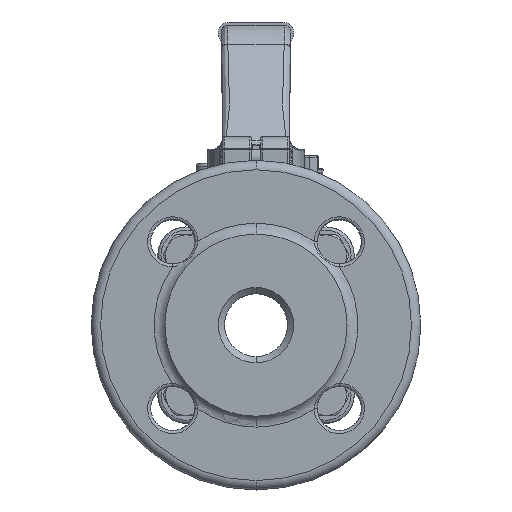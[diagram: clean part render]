
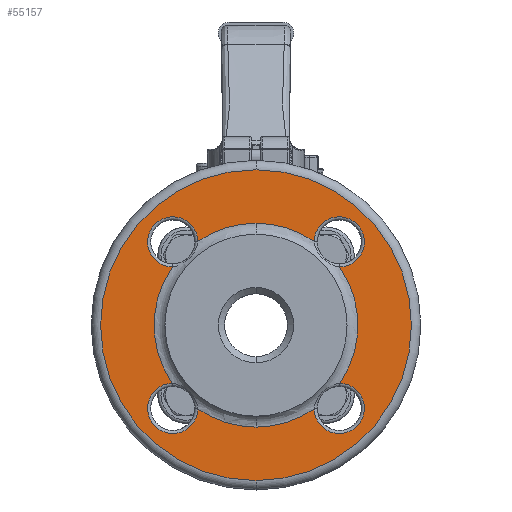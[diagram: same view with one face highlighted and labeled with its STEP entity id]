
A CAD part, left-side view. The second image highlights one B-rep face of the part: STEP entity #55157.
In plain terms, the highlighted planar face has unit normal (-1, 0, 0).
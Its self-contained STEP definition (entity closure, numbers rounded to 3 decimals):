
#57=CARTESIAN_POINT('',(-43.,0.,0.));
#58=DIRECTION('',(1.,0.,0.));
#59=DIRECTION('',(0.,0.821,-0.57));
#60=AXIS2_PLACEMENT_3D('',#57,#58,#59);
#62=CARTESIAN_POINT('',(-43.,0.,0.));
#63=DIRECTION('',(1.,0.,0.));
#64=DIRECTION('',(0.,0.,-1.));
#65=AXIS2_PLACEMENT_3D('',#62,#63,#64);
#67=CARTESIAN_POINT('',(-43.,0.,0.));
#68=DIRECTION('',(-1.,0.,0.));
#69=DIRECTION('',(0.,0.,-1.));
#70=AXIS2_PLACEMENT_3D('',#67,#68,#69);
#72=CARTESIAN_POINT('',(-43.,0.,0.));
#73=DIRECTION('',(-1.,0.,0.));
#74=DIRECTION('',(0.,-0.821,-0.57));
#75=AXIS2_PLACEMENT_3D('',#72,#73,#74);
#77=CARTESIAN_POINT('',(-43.,0.,0.));
#78=DIRECTION('',(-1.,0.,0.));
#79=DIRECTION('',(0.,-0.57,0.821));
#80=AXIS2_PLACEMENT_3D('',#77,#78,#79);
#82=CARTESIAN_POINT('',(-43.,0.,0.));
#83=DIRECTION('',(1.,0.,0.));
#84=DIRECTION('',(0.,0.57,0.821));
#85=AXIS2_PLACEMENT_3D('',#82,#83,#84);
#92=CARTESIAN_POINT('',(-43.,0.,0.));
#93=DIRECTION('',(1.,0.,0.));
#94=DIRECTION('',(0.,0.,-1.));
#95=AXIS2_PLACEMENT_3D('',#92,#93,#94);
#115=CARTESIAN_POINT('',(-43.,0.,0.));
#116=DIRECTION('',(1.,0.,0.));
#117=DIRECTION('',(0.,0.,1.));
#118=AXIS2_PLACEMENT_3D('',#115,#116,#117);
#44764=CARTESIAN_POINT('',(-43.,26.517,26.517));
#44765=DIRECTION('',(1.,0.,0.));
#44766=DIRECTION('',(0.,0.019,-1.));
#44767=AXIS2_PLACEMENT_3D('',#44764,#44765,#44766);
#44784=CARTESIAN_POINT('',(-43.,18.518,
26.665));
#44837=CARTESIAN_POINT('',(-43.,26.665,
18.518));
#44918=CARTESIAN_POINT('',(-43.,-26.517,26.517));
#44919=DIRECTION('',(1.,0.,0.));
#44920=DIRECTION('',(0.,1.,0.019));
#44921=AXIS2_PLACEMENT_3D('',#44918,#44919,#44920);
#44938=CARTESIAN_POINT('',(-43.,-26.665,
18.518));
#45020=CARTESIAN_POINT('',(-43.,-18.518,
26.665));
#45106=CARTESIAN_POINT('',(-43.,-26.665,
-18.518));
#45164=CARTESIAN_POINT('',(-43.,-26.517,-26.517));
#45165=DIRECTION('',(1.,0.,0.));
#45166=DIRECTION('',(0.,-0.019,1.));
#45167=AXIS2_PLACEMENT_3D('',#45164,#45165,#45166);
#45173=CARTESIAN_POINT('',(-43.,-18.518,
-26.665));
#45231=CARTESIAN_POINT('',(-43.,18.518,
-26.665));
#45245=CARTESIAN_POINT('',(-43.,26.517,-26.517));
#45246=DIRECTION('',(1.,0.,0.));
#45247=DIRECTION('',(0.,-1.,-0.019));
#45248=AXIS2_PLACEMENT_3D('',#45245,#45246,#45247);
#45265=CARTESIAN_POINT('',(-43.,26.665,
-18.518));
#45362=CARTESIAN_POINT('',(-43.,0.,-49.5));
#45363=CARTESIAN_POINT('',(-43.,0.,49.5));
#45364=VERTEX_POINT('',#45362);
#45365=VERTEX_POINT('',#45363);
#47078=VERTEX_POINT('',#44784);
#47081=VERTEX_POINT('',#44837);
#47095=VERTEX_POINT('',#44938);
#47098=VERTEX_POINT('',#45020);
#47108=VERTEX_POINT('',#45173);
#47112=VERTEX_POINT('',#45106);
#47128=VERTEX_POINT('',#45265);
#47131=VERTEX_POINT('',#45231);
#47141=CARTESIAN_POINT('',(-43.,0.,32.464));
#47142=VERTEX_POINT('',#47141);
#47143=CARTESIAN_POINT('',(-43.,0.,-32.464));
#47144=VERTEX_POINT('',#47143);
#55130=CARTESIAN_POINT('',(-43.,0.,0.));
#55131=DIRECTION('',(-1.,0.,0.));
#55132=DIRECTION('',(0.,0.,1.));
#55133=AXIS2_PLACEMENT_3D('',#55130,#55131,#55132);
#55134=PLANE('',#55133);
#55136=ORIENTED_EDGE('',*,*,#55135,.T.);
#55138=ORIENTED_EDGE('',*,*,#55137,.T.);
#55139=EDGE_LOOP('',(#55136,#55138));
#55140=FACE_OUTER_BOUND('',#55139,.F.);
#55142=ORIENTED_EDGE('',*,*,#55141,.F.);
#55143=ORIENTED_EDGE('',*,*,#55118,.F.);
#55145=ORIENTED_EDGE('',*,*,#55144,.F.);
#55146=ORIENTED_EDGE('',*,*,#55112,.F.);
#55147=ORIENTED_EDGE('',*,*,#55098,.T.);
#55149=ORIENTED_EDGE('',*,*,#55148,.F.);
#55150=ORIENTED_EDGE('',*,*,#55092,.T.);
#55152=ORIENTED_EDGE('',*,*,#55151,.F.);
#55153=ORIENTED_EDGE('',*,*,#55086,.T.);
#55154=ORIENTED_EDGE('',*,*,#55124,.F.);
#55155=EDGE_LOOP('',(#55142,#55143,#55145,#55146,#55147,#55149,#55150,#55152,
#55153,#55154));
#55156=FACE_BOUND('',#55155,.F.);
#55157=ADVANCED_FACE('',(#55140,#55156),#55134,.T.);
#61=CIRCLE('',#60,32.464);
#66=CIRCLE('',#65,32.464);
#71=CIRCLE('',#70,32.464);
#76=CIRCLE('',#75,32.464);
#81=CIRCLE('',#80,32.464);
#86=CIRCLE('',#85,32.464);
#96=CIRCLE('',#95,49.5);
#119=CIRCLE('',#118,49.5);
#44768=CIRCLE('',#44767,8.);
#44922=CIRCLE('',#44921,8.);
#45168=CIRCLE('',#45167,8.);
#45249=CIRCLE('',#45248,8.);
#55086=EDGE_CURVE('',#47098,#47142,#81,.T.);
#55092=EDGE_CURVE('',#47112,#47095,#76,.T.);
#55098=EDGE_CURVE('',#47144,#47108,#71,.T.);
#55112=EDGE_CURVE('',#47144,#47131,#66,.T.);
#55118=EDGE_CURVE('',#47128,#47081,#61,.T.);
#55124=EDGE_CURVE('',#47078,#47142,#86,.T.);
#55135=EDGE_CURVE('',#45364,#45365,#96,.T.);
#55137=EDGE_CURVE('',#45365,#45364,#119,.T.);
#55141=EDGE_CURVE('',#47081,#47078,#44768,.T.);
#55144=EDGE_CURVE('',#47131,#47128,#45249,.T.);
#55148=EDGE_CURVE('',#47112,#47108,#45168,.T.);
#55151=EDGE_CURVE('',#47098,#47095,#44922,.T.);
